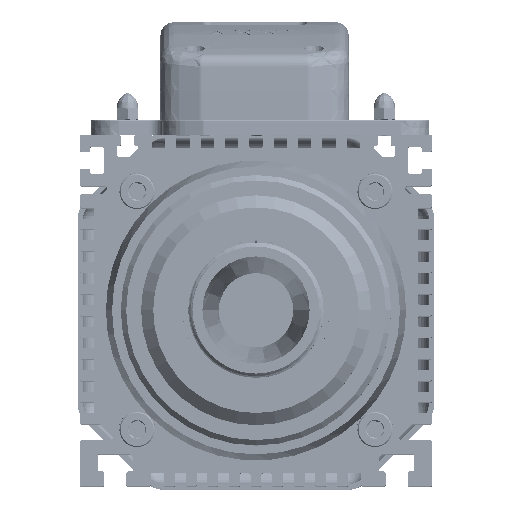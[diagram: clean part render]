
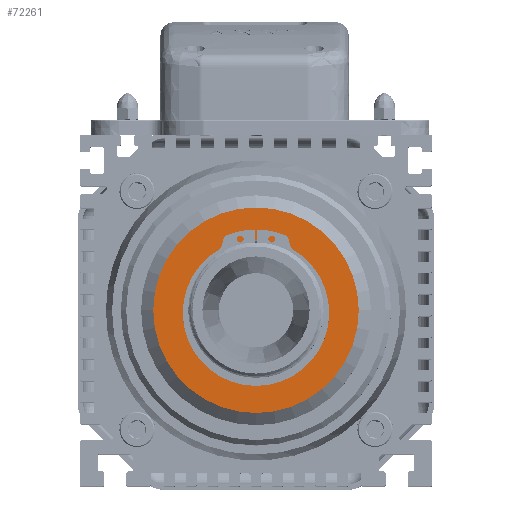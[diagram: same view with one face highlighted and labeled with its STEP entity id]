
A CAD part, top view. The second image highlights one B-rep face of the part: STEP entity #72261.
In plain terms, the highlighted planar face has unit normal (0, 0, 1).
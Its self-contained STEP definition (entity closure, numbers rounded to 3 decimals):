
#73 = PLANE ( 'NONE',  #23803 ) ;
#307 = CARTESIAN_POINT ( 'NONE',  ( 0., 0., 0. ) ) ;
#4793 = FACE_OUTER_BOUND ( 'NONE', #51640, .T. ) ;
#8213 = CARTESIAN_POINT ( 'NONE',  ( 38., 0., 0. ) ) ;
#8370 = ORIENTED_EDGE ( 'NONE', *, *, #94094, .T. ) ;
#9397 = DIRECTION ( 'NONE',  ( 0., 0., -1. ) ) ;
#16181 = AXIS2_PLACEMENT_3D ( 'NONE', #85556, #63957, #53134 ) ;
#16729 = DIRECTION ( 'NONE',  ( 1., 0., 0. ) ) ;
#17091 = ORIENTED_EDGE ( 'NONE', *, *, #103177, .T. ) ;
#17231 = CIRCLE ( 'NONE', #26975, 26. ) ;
#18354 = ORIENTED_EDGE ( 'NONE', *, *, #30717, .T. ) ;
#18361 = FACE_BOUND ( 'NONE', #31428, .T. ) ;
#18448 = VERTEX_POINT ( 'NONE', #74532 ) ;
#23803 = AXIS2_PLACEMENT_3D ( 'NONE', #94533, #83725, #72946 ) ;
#26975 = AXIS2_PLACEMENT_3D ( 'NONE', #307, #83966, #73182 ) ;
#27483 = DIRECTION ( 'NONE',  ( 0., 0., 1. ) ) ;
#30717 = EDGE_CURVE ( 'NONE', #66627, #79049, #100119, .T. ) ;
#31428 = EDGE_LOOP ( 'NONE', ( #40919, #17091 ) ) ;
#38278 = CARTESIAN_POINT ( 'NONE',  ( 0., 0., 0. ) ) ;
#40919 = ORIENTED_EDGE ( 'NONE', *, *, #101324, .T. ) ;
#42721 = AXIS2_PLACEMENT_3D ( 'NONE', #38278, #27483, #16729 ) ;
#51640 = EDGE_LOOP ( 'NONE', ( #8370, #18354 ) ) ;
#53134 = DIRECTION ( 'NONE',  ( 1., 0., 0. ) ) ;
#63957 = DIRECTION ( 'NONE',  ( 0., 0., 1. ) ) ;
#63993 = CIRCLE ( 'NONE', #72549, 26. ) ;
#66627 = VERTEX_POINT ( 'NONE', #8213 ) ;
#72261 = ADVANCED_FACE ( 'NONE', ( #18361, #4793 ), #73, .F. ) ;
#72549 = AXIS2_PLACEMENT_3D ( 'NONE', #95633, #9397, #103875 ) ;
#72946 = DIRECTION ( 'NONE',  ( -1., 0., 0. ) ) ;
#73182 = DIRECTION ( 'NONE',  ( -1., 0., 0. ) ) ;
#73680 = CARTESIAN_POINT ( 'NONE',  ( -38., 0., 0. ) ) ;
#74532 = CARTESIAN_POINT ( 'NONE',  ( -26., 0., 0. ) ) ;
#76035 = CIRCLE ( 'NONE', #42721, 38. ) ;
#79049 = VERTEX_POINT ( 'NONE', #73680 ) ;
#82319 = CARTESIAN_POINT ( 'NONE',  ( 26., 0., 0. ) ) ;
#83725 = DIRECTION ( 'NONE',  ( 0., 0., -1. ) ) ;
#83966 = DIRECTION ( 'NONE',  ( 0., 0., -1. ) ) ;
#85556 = CARTESIAN_POINT ( 'NONE',  ( 0., 0., 0. ) ) ;
#90433 = VERTEX_POINT ( 'NONE', #82319 ) ;
#94094 = EDGE_CURVE ( 'NONE', #79049, #66627, #76035, .T. ) ;
#94533 = CARTESIAN_POINT ( 'NONE',  ( 0., 38., 0. ) ) ;
#95633 = CARTESIAN_POINT ( 'NONE',  ( 0., 0., 0. ) ) ;
#100119 = CIRCLE ( 'NONE', #16181, 38. ) ;
#101324 = EDGE_CURVE ( 'NONE', #18448, #90433, #63993, .T. ) ;
#103177 = EDGE_CURVE ( 'NONE', #90433, #18448, #17231, .T. ) ;
#103875 = DIRECTION ( 'NONE',  ( -1., 0., 0. ) ) ;
